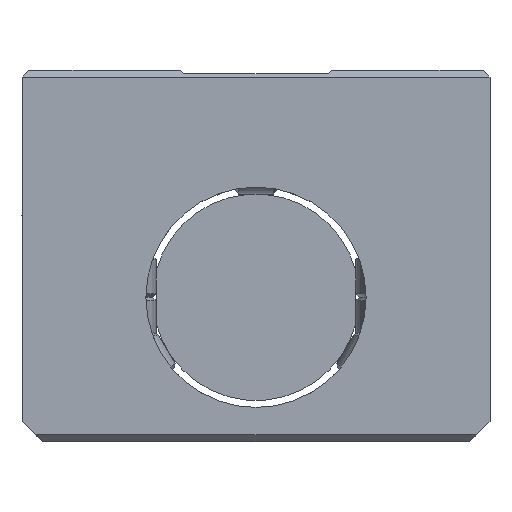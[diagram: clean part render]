
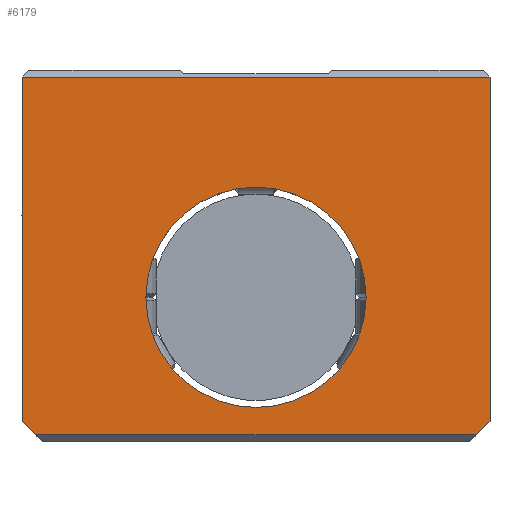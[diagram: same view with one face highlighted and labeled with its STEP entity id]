
A CAD part, left-side view. The second image highlights one B-rep face of the part: STEP entity #6179.
In plain terms, the highlighted planar face has unit normal (-1, 0, 0).
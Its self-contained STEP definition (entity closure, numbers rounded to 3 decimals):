
#5236=CARTESIAN_POINT('',(209.555,-34.0,32.0));
#5237=VERTEX_POINT('',#5236);
#5246=CARTESIAN_POINT('',(209.555,-34.0,-18.));
#5247=VERTEX_POINT('',#5246);
#5248=CARTESIAN_POINT('',(209.555,-34.0,32.0));
#5249=DIRECTION('',(0.0,0.0,-1.0));
#5250=VECTOR('',#5249,50.);
#5251=LINE('',#5248,#5250);
#5252=EDGE_CURVE('',#5237,#5247,#5251,.T.);
#5966=CARTESIAN_POINT('',(209.555,34.0,32.0));
#5967=VERTEX_POINT('',#5966);
#5974=CARTESIAN_POINT('',(209.555,34.0,32.0));
#5975=DIRECTION('',(0.0,-1.0,0.0));
#5976=VECTOR('',#5975,68.0);
#5977=LINE('',#5974,#5976);
#5978=EDGE_CURVE('',#5967,#5237,#5977,.T.);
#6101=CARTESIAN_POINT('',(209.555,-32.,-20.));
#6102=VERTEX_POINT('',#6101);
#6103=CARTESIAN_POINT('',(209.555,-34.0,-18.));
#6104=DIRECTION('',(0.0,0.707,-0.707));
#6105=VECTOR('',#6104,2.828);
#6106=LINE('',#6103,#6105);
#6107=EDGE_CURVE('',#5247,#6102,#6106,.T.);
#6124=CARTESIAN_POINT('',(209.555,32.,-20.));
#6125=VERTEX_POINT('',#6124);
#6134=CARTESIAN_POINT('',(209.555,-32.,-20.));
#6135=DIRECTION('',(0.0,1.0,0.0));
#6136=VECTOR('',#6135,64.);
#6137=LINE('',#6134,#6136);
#6138=EDGE_CURVE('',#6102,#6125,#6137,.T.);
#6143=CARTESIAN_POINT('',(209.555,-22.5,32.75));
#6144=DIRECTION('',(1.0,0.0,0.0));
#6145=DIRECTION('',(0.0,0.0,-1.0));
#6146=AXIS2_PLACEMENT_3D('',#6143,#6144,#6145);
#6147=PLANE('',#6146);
#6148=ORIENTED_EDGE('',*,*,#6138,.F.);
#6149=ORIENTED_EDGE('',*,*,#6107,.F.);
#6150=ORIENTED_EDGE('',*,*,#5252,.F.);
#6151=ORIENTED_EDGE('',*,*,#5978,.F.);
#6152=CARTESIAN_POINT('',(209.555,34.0,-18.));
#6153=VERTEX_POINT('',#6152);
#6154=CARTESIAN_POINT('',(209.555,34.0,-18.));
#6155=DIRECTION('',(0.0,0.0,1.0));
#6156=VECTOR('',#6155,50.);
#6157=LINE('',#6154,#6156);
#6158=EDGE_CURVE('',#6153,#5967,#6157,.T.);
#6159=ORIENTED_EDGE('',*,*,#6158,.F.);
#6160=CARTESIAN_POINT('',(209.555,32.,-20.));
#6161=DIRECTION('',(0.0,0.707,0.707));
#6162=VECTOR('',#6161,2.828);
#6163=LINE('',#6160,#6162);
#6164=EDGE_CURVE('',#6125,#6153,#6163,.T.);
#6165=ORIENTED_EDGE('',*,*,#6164,.F.);
#6166=EDGE_LOOP('',(#6148,#6149,#6150,#6151,#6159,#6165));
#6167=FACE_OUTER_BOUND('',#6166,.T.);
#6168=CARTESIAN_POINT('',(209.555,16.0,0.));
#6169=VERTEX_POINT('',#6168);
#6170=CARTESIAN_POINT('',(209.555,0.0,0.0));
#6171=DIRECTION('',(1.0,0.0,0.0));
#6172=DIRECTION('',(0.0,-1.0,0.0));
#6173=AXIS2_PLACEMENT_3D('',#6170,#6171,#6172);
#6174=CIRCLE('',#6173,16.0);
#6175=EDGE_CURVE('',#6169,#6169,#6174,.T.);
#6176=ORIENTED_EDGE('',*,*,#6175,.T.);
#6177=EDGE_LOOP('',(#6176));
#6178=FACE_BOUND('',#6177,.T.);
#6179=ADVANCED_FACE('',(#6167,#6178),#6147,.F.);
